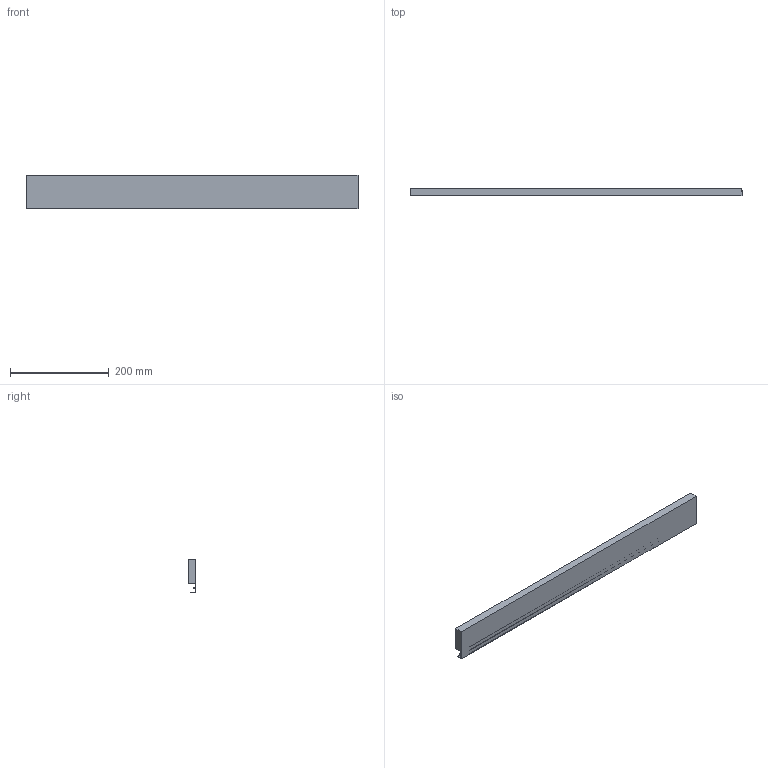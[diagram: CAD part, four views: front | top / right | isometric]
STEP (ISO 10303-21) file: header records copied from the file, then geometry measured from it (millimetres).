
FILE_DESCRIPTION (( 'STEP AP214' ), '1' );
FILE_NAME ('Innenschub-Blendenprofil_KAB800_S18.step', '2010-09-23T12:27:02', ( 'grass' ), ( '' ), 'SwSTEP 2.0', 'SolidWorks 2010', '' );
FILE_SCHEMA (( 'AUTOMOTIVE_DESIGN' ));
Length unit declared in the file: millimetre
Products named in the file (1): Innenschub-Blendenprofil_KAB800_S18
Bounding box: 673 x 15.9 x 67.6 mm (x, y, z)
Volume: 558024.3 mm3; surface area: 133735.6 mm2
Topology: 1 solids, 1 shells, 17 faces, 42 edges, 28 vertices
Faces by surface type: plane 15, cylinder 2
Entity records: 534 total; most frequent: CARTESIAN_POINT 88, ORIENTED_EDGE 84, DIRECTION 82, EDGE_CURVE 42, VECTOR 38, LINE 38, VERTEX_POINT 28, AXIS2_PLACEMENT_3D 22
